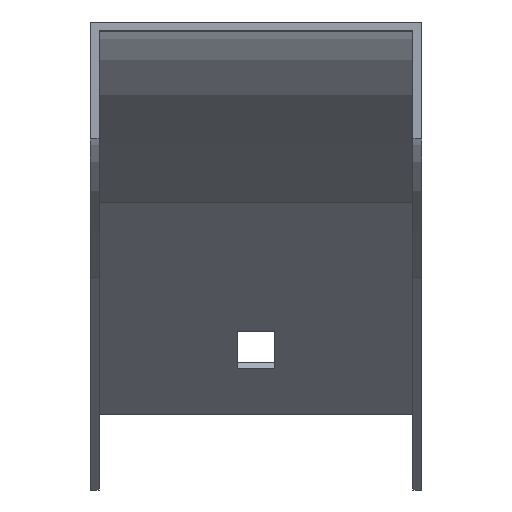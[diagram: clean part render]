
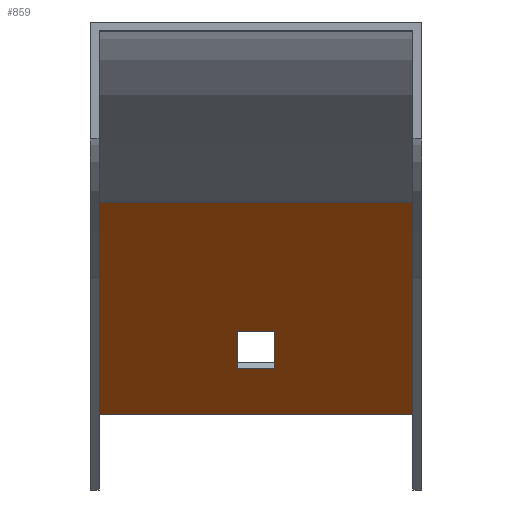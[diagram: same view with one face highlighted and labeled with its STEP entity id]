
A CAD part, top view. The second image highlights one B-rep face of the part: STEP entity #859.
In plain terms, the highlighted planar face has unit normal (0, -0.707, 0.707).
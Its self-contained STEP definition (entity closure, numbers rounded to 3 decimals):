
#5 = EDGE_CURVE ( 'NONE', #775, #31, #570, .T. ) ;
#15 = DIRECTION ( 'NONE',  ( 1., 0., 0. ) ) ;
#31 = VERTEX_POINT ( 'NONE', #618 ) ;
#46 = VECTOR ( 'NONE', #15, 1000. ) ;
#59 = ORIENTED_EDGE ( 'NONE', *, *, #658, .T. ) ;
#66 = VECTOR ( 'NONE', #244, 1000. ) ;
#108 = CARTESIAN_POINT ( 'NONE',  ( 27., -67.234, -158.695 ) ) ;
#113 = EDGE_CURVE ( 'NONE', #211, #162, #414, .T. ) ;
#162 = VERTEX_POINT ( 'NONE', #222 ) ;
#167 = DIRECTION ( 'NONE',  ( 0., -0.707, 0.707 ) ) ;
#168 = VERTEX_POINT ( 'NONE', #205 ) ;
#178 = CARTESIAN_POINT ( 'NONE',  ( -3.25, -30.789, -122.251 ) ) ;
#180 = ORIENTED_EDGE ( 'NONE', *, *, #203, .F. ) ;
#183 = LINE ( 'NONE', #709, #799 ) ;
#203 = EDGE_CURVE ( 'NONE', #31, #168, #616, .T. ) ;
#205 = CARTESIAN_POINT ( 'NONE',  ( -27., -30.789, -122.251 ) ) ;
#211 = VERTEX_POINT ( 'NONE', #818 ) ;
#222 = CARTESIAN_POINT ( 'NONE',  ( 3.25, -53.091, -144.553 ) ) ;
#226 = VECTOR ( 'NONE', #685, 1000. ) ;
#229 = VERTEX_POINT ( 'NONE', #385 ) ;
#234 = CARTESIAN_POINT ( 'NONE',  ( 27., -30.789, -122.251 ) ) ;
#238 = CARTESIAN_POINT ( 'NONE',  ( 3.25, -59.455, -150.917 ) ) ;
#243 = EDGE_CURVE ( 'NONE', #744, #168, #833, .T. ) ;
#244 = DIRECTION ( 'NONE',  ( 0., 0.707, 0.707 ) ) ;
#268 = VECTOR ( 'NONE', #755, 1000. ) ;
#277 = CARTESIAN_POINT ( 'NONE',  ( -27., -30.789, -122.251 ) ) ;
#285 = VECTOR ( 'NONE', #837, 1000. ) ;
#293 = ORIENTED_EDGE ( 'NONE', *, *, #113, .T. ) ;
#295 = CARTESIAN_POINT ( 'NONE',  ( 28.5, -30.789, -122.251 ) ) ;
#309 = DIRECTION ( 'NONE',  ( -1., 0., 0. ) ) ;
#385 = CARTESIAN_POINT ( 'NONE',  ( -3.25, -59.455, -150.917 ) ) ;
#414 = LINE ( 'NONE', #680, #46 ) ;
#433 = ORIENTED_EDGE ( 'NONE', *, *, #5, .F. ) ;
#434 = PLANE ( 'NONE',  #655 ) ;
#439 = LINE ( 'NONE', #517, #285 ) ;
#497 = CARTESIAN_POINT ( 'NONE',  ( 28.5, -67.234, -158.695 ) ) ;
#498 = FACE_BOUND ( 'NONE', #634, .T. ) ;
#513 = CARTESIAN_POINT ( 'NONE',  ( 28.5, -30.789, -122.251 ) ) ;
#517 = CARTESIAN_POINT ( 'NONE',  ( 27., -30.789, -122.251 ) ) ;
#522 = VECTOR ( 'NONE', #309, 1000. ) ;
#531 = DIRECTION ( 'NONE',  ( 0., -0.707, -0.707 ) ) ;
#557 = DIRECTION ( 'NONE',  ( 0., 0.707, 0.707 ) ) ;
#570 = LINE ( 'NONE', #497, #226 ) ;
#579 = FACE_OUTER_BOUND ( 'NONE', #676, .T. ) ;
#601 = VECTOR ( 'NONE', #557, 1000. ) ;
#616 = LINE ( 'NONE', #277, #601 ) ;
#617 = EDGE_CURVE ( 'NONE', #731, #229, #687, .T. ) ;
#618 = CARTESIAN_POINT ( 'NONE',  ( -27., -67.234, -158.695 ) ) ;
#634 = EDGE_LOOP ( 'NONE', ( #811, #59, #293, #722 ) ) ;
#644 = DIRECTION ( 'NONE',  ( 0., -0.707, -0.707 ) ) ;
#653 = EDGE_CURVE ( 'NONE', #162, #731, #183, .T. ) ;
#655 = AXIS2_PLACEMENT_3D ( 'NONE', #295, #167, #644 ) ;
#658 = EDGE_CURVE ( 'NONE', #229, #211, #704, .T. ) ;
#676 = EDGE_LOOP ( 'NONE', ( #180, #433, #703, #844 ) ) ;
#680 = CARTESIAN_POINT ( 'NONE',  ( 28.5, -53.091, -144.553 ) ) ;
#681 = EDGE_CURVE ( 'NONE', #775, #744, #439, .T. ) ;
#685 = DIRECTION ( 'NONE',  ( -1., 0., 0. ) ) ;
#687 = LINE ( 'NONE', #810, #268 ) ;
#703 = ORIENTED_EDGE ( 'NONE', *, *, #681, .T. ) ;
#704 = LINE ( 'NONE', #178, #66 ) ;
#709 = CARTESIAN_POINT ( 'NONE',  ( 3.25, -30.789, -122.251 ) ) ;
#722 = ORIENTED_EDGE ( 'NONE', *, *, #653, .T. ) ;
#731 = VERTEX_POINT ( 'NONE', #238 ) ;
#744 = VERTEX_POINT ( 'NONE', #234 ) ;
#755 = DIRECTION ( 'NONE',  ( -1., 0., 0. ) ) ;
#775 = VERTEX_POINT ( 'NONE', #108 ) ;
#799 = VECTOR ( 'NONE', #531, 1000. ) ;
#810 = CARTESIAN_POINT ( 'NONE',  ( 28.5, -59.455, -150.917 ) ) ;
#811 = ORIENTED_EDGE ( 'NONE', *, *, #617, .T. ) ;
#818 = CARTESIAN_POINT ( 'NONE',  ( -3.25, -53.091, -144.553 ) ) ;
#833 = LINE ( 'NONE', #513, #522 ) ;
#837 = DIRECTION ( 'NONE',  ( 0., 0.707, 0.707 ) ) ;
#844 = ORIENTED_EDGE ( 'NONE', *, *, #243, .T. ) ;
#859 = ADVANCED_FACE ( 'NONE', ( #579, #498 ), #434, .T. ) ;
